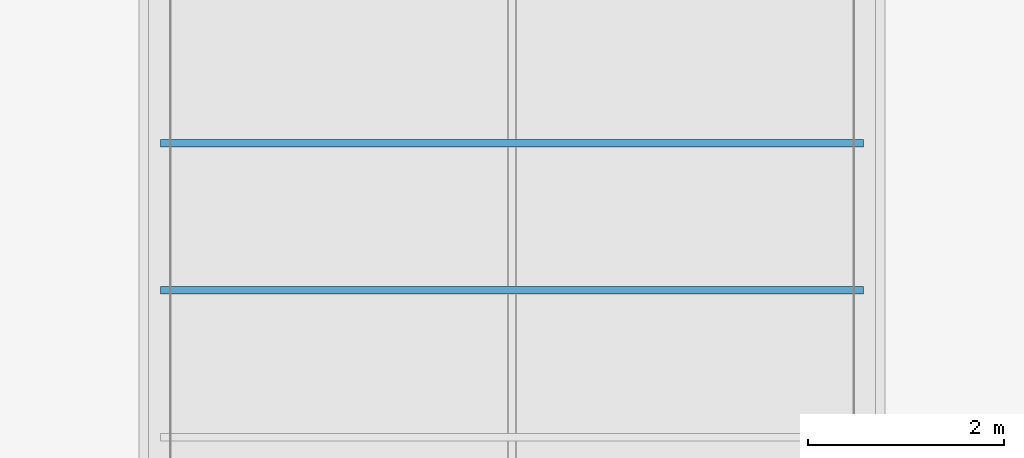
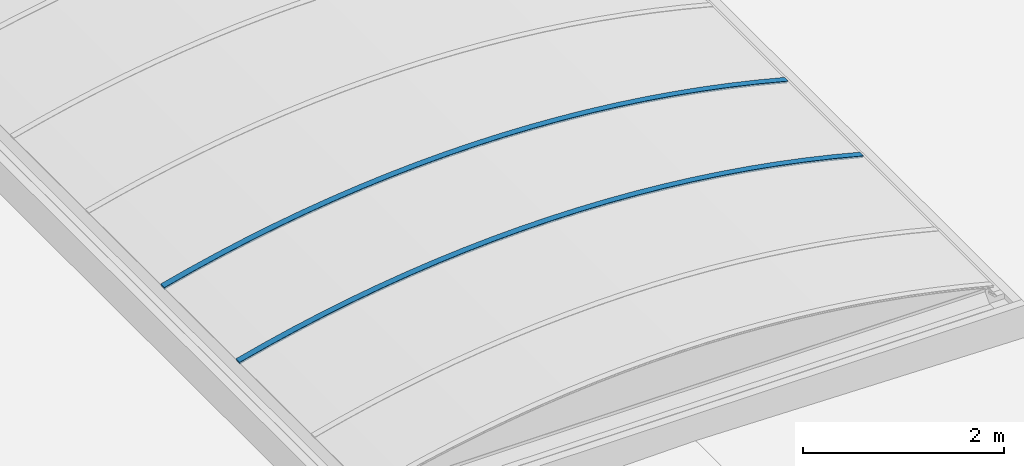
# One storey, part 53 of 81: 2 beams.
"""IFC2X3 building model written with IfcOpenShell, lengths in millimetres."""

from ifc_helpers import new_model, entity, si_unit, converted_unit, derived_unit, money_unit, direction, frame, origin_with_axes, place, context, subcontext, project, spatial, faceted_brep, material, material_list, type_object, element, save


model = new_model("IFC2X3")

# Units and contexts
model_context = context("Model", 3, precision=0.01, world=origin_with_axes(), true_north=direction((0.0, 1.0)))
body_context = subcontext(model_context, "Body", "Model", "MODEL_VIEW")
ifc_project = project(units=[si_unit("LENGTHUNIT", "METRE", prefix="MILLI"), si_unit("AREAUNIT", "SQUARE_METRE"), si_unit("VOLUMEUNIT", "CUBIC_METRE"), converted_unit("PLANEANGLEUNIT", "DEGREE", entity("IfcPlaneAngleMeasure", 0.0174532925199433), si_unit("PLANEANGLEUNIT", "RADIAN"), dimensions=[0, 0, 0, 0, 0, 0, 0]), money_unit("EUR"), converted_unit("TIMEUNIT", "Year", entity("IfcTimeMeasure", 31557600.0), si_unit("TIMEUNIT", "SECOND"), dimensions=[0, 0, 1, 0, 0, 0, 0]), si_unit("MASSUNIT", "GRAM", prefix="KILO"), si_unit("THERMODYNAMICTEMPERATUREUNIT", "DEGREE_CELSIUS"), si_unit("LUMINOUSINTENSITYUNIT", "LUMEN"), si_unit("ENERGYUNIT", "JOULE", prefix="MEGA"), derived_unit("THERMALCONDUCTANCEUNIT", [(si_unit("POWERUNIT", "WATT"), 1), (si_unit("LENGTHUNIT", "METRE"), -1), (si_unit("THERMODYNAMICTEMPERATUREUNIT", "KELVIN"), -1)]), derived_unit("SPECIFICHEATCAPACITYUNIT", [(si_unit("ENERGYUNIT", "JOULE"), 1), (si_unit("MASSUNIT", "GRAM", prefix="KILO"), -1), (si_unit("THERMODYNAMICTEMPERATUREUNIT", "KELVIN"), -1)]), derived_unit("MASSDENSITYUNIT", [(si_unit("MASSUNIT", "GRAM", prefix="KILO"), 1), (si_unit("VOLUMEUNIT", "CUBIC_METRE"), -1)])], contexts=[model_context])

# Site, building, storey
site_placement = place(None, origin_with_axes())
site = spatial("IfcSite", under=ifc_project, at=site_placement, Name="Site", CompositionType="ELEMENT")
building_placement = place(site_placement, origin_with_axes())
building = spatial("IfcBuilding", under=site, at=building_placement, Name="Naam gebouw", CompositionType="ELEMENT")
storey_placement = place(building_placement, frame((0.0, 0.0, 15320.0), z_axis=(0.0, 0.0, 1.0), x_axis=(1.0, 0.0, 0.0)))
storey = spatial("IfcBuildingStorey", under=building, at=storey_placement, Name="01 dak", CompositionType="ELEMENT", Elevation=15320.0)

# Beams
ifc_material = material(Name="Metaal - Aluminium AFW")
ifc_material_list = material_list([ifc_material, ifc_material])
beam_type = type_object("IfcBeamType", Name="lichtstraat polycarbonaat (constructie) 7420 x 670", PredefinedType="BEAM")
beam_1_placement = place(storey_placement, frame((105300.0, 73362.50000000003, 559.9999999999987), z_axis=(0.0, 0.0, 1.0), x_axis=(1.0, 0.0, 0.0)))
element("IfcBeam", 1, at=beam_1_placement, inside=storey, type_object=beam_type, material=ifc_material_list, Name="Plafondafwerking 3", ObjectType="BEAM", context=body_context, shape_type="Brep", body=[
    faceted_brep([(-3532.999999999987, 75.00000000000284, 192.1385480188), (-3532.999999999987, 0.0, 192.1385480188), (-3582.999999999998, 0.0, 179.000000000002), (-3582.999999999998, 75.00000000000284, 179.000000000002), (-3527.999999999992, 75.00000000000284, 193.4415530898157), (-3527.999999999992, 0.0, 193.4415530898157), (-2943.44844329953, 0.0, 337.3385317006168), (-3264.746952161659, 0.0, 264.2761146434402), (-3584.237010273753, 0.0, 183.6724462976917), (-3213.32287812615, 0.0, 271.5053933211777), (-2896.922437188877, 0.0, 342.2614189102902), (-2578.96836412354, 0.0, 405.6716830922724), (-2259.631179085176, 0.0, 461.7021786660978), (-1939.082143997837, 0.0, 510.3228562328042), (-1617.493170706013, 0.0, 551.5076403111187), (-1295.036728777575, 0.0, 585.2344433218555), (-971.8857530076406, 0.0, 611.485177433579), (-648.2135506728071, 0.0, 630.2457642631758), (-324.1937085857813, 0.0, 641.5061424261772), (0.0, 0.0, 645.2602729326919), (324.1937085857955, 0.0, 641.5061424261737), (648.2135506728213, 0.0, 630.2457642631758), (971.8857530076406, 0.0, 611.4851774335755), (1295.036728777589, 0.0, 585.2344433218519), (1617.493170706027, 0.0, 551.5076403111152), (1939.082143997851, 0.0, 510.3228562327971), (2259.63117908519, 0.0, 461.7021786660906), (2578.96836412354, 0.0, 405.6716830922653), (2896.922437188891, 0.0, 342.2614189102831), (3213.322878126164, 0.0, 271.5053933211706), (3528.000000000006, 0.0, 193.4415530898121), (3528.000000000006, 0.0, 194.0000000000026), (3533.000000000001, 0.0, 194.0000000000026), (3533.000000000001, 0.0, 192.1385480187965), (3582.999999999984, 0.0, 179.000000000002), (3584.237010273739, 0.0, 183.6724462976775), (3264.746952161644, 0.0, 264.2761146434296), (2943.448443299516, 0.0, 337.3385317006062), (2620.51946150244, 0.0, 402.8192257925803), (2296.138887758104, 0.0, 460.6819250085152), (1970.486407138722, 0.0, 510.8945772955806), (1643.742409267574, 0.0, 553.4293682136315), (1316.087888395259, 0.0, 588.2627363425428), (987.7043431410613, 0.0, 615.3753863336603), (658.7736759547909, 0.0, 634.7522995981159), (329.4780923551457, 0.0, 646.3827426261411), (0.0, 0.0, 650.2602729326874), (-329.4780923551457, 0.0, 646.3827426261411), (-658.7736759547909, 0.0, 634.7522995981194), (-987.7043431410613, 0.0, 615.375386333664), (-1316.087888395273, 0.0, 588.2627363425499), (-1643.742409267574, 0.0, 553.4293682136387), (-1970.486407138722, 0.0, 510.8945772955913), (-2296.138887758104, 0.0, 460.6819250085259), (-2620.519461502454, 0.0, 402.8192257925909), (-3584.237010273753, 75.00000000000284, 183.6724462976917), (-3213.32287812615, 75.00000000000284, 271.5053933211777), (-3264.746952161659, 75.00000000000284, 264.2761146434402), (-2943.44844329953, 75.00000000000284, 337.3385317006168), (-2620.519461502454, 75.00000000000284, 402.8192257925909), (-2296.138887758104, 75.00000000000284, 460.6819250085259), (-1970.486407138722, 75.00000000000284, 510.8945772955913), (-1643.742409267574, 75.00000000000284, 553.4293682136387), (-1316.087888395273, 75.00000000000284, 588.2627363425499), (-987.7043431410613, 75.00000000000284, 615.375386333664), (-658.7736759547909, 75.00000000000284, 634.7522995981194), (-329.4780923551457, 75.00000000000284, 646.3827426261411), (0.0, 75.00000000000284, 650.2602729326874), (329.4780923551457, 75.00000000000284, 646.3827426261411), (658.7736759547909, 75.00000000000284, 634.7522995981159), (987.7043431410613, 75.00000000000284, 615.3753863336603), (1316.087888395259, 75.00000000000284, 588.2627363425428), (1643.742409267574, 75.00000000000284, 553.4293682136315), (1970.486407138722, 75.00000000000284, 510.8945772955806), (2296.138887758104, 75.00000000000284, 460.6819250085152), (2620.51946150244, 75.00000000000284, 402.8192257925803), (2943.448443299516, 75.00000000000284, 337.3385317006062), (3264.746952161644, 75.00000000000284, 264.2761146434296), (3584.237010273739, 75.00000000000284, 183.6724462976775), (3582.999999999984, 75.00000000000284, 179.000000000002), (3533.000000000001, 75.00000000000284, 192.1385480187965), (3533.000000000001, 75.00000000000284, 194.0000000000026), (3528.000000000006, 75.00000000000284, 194.0000000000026), (3528.000000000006, 75.00000000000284, 193.4415530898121), (3213.322878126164, 75.00000000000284, 271.5053933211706), (2896.922437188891, 75.00000000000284, 342.2614189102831), (2578.96836412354, 75.00000000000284, 405.6716830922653), (2259.63117908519, 75.00000000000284, 461.7021786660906), (1939.082143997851, 75.00000000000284, 510.3228562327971), (1617.493170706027, 75.00000000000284, 551.5076403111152), (1295.036728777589, 75.00000000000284, 585.2344433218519), (971.8857530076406, 75.00000000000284, 611.4851774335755), (648.2135506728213, 75.00000000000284, 630.2457642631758), (324.1937085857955, 75.00000000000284, 641.5061424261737), (0.0, 75.00000000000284, 645.2602729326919), (-324.1937085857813, 75.00000000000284, 641.5061424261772), (-648.2135506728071, 75.00000000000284, 630.2457642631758), (-971.8857530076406, 75.00000000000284, 611.485177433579), (-1295.036728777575, 75.00000000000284, 585.2344433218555), (-1617.493170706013, 75.00000000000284, 551.5076403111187), (-1939.082143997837, 75.00000000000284, 510.3228562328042), (-2259.631179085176, 75.00000000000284, 461.7021786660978), (-2578.96836412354, 75.00000000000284, 405.6716830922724), (-2896.922437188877, 75.00000000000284, 342.2614189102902)], [[[0, 1, 2, 3]], [[4, 5, 1, 0]], [[6, 7, 8, 2, 1, 5, 9, 10, 11, 12, 13, 14, 15, 16, 17, 18, 19, 20, 21, 22, 23, 24, 25, 26, 27, 28, 29, 30, 31, 32, 33, 34, 35, 36, 37, 38, 39, 40, 41, 42, 43, 44, 45, 46, 47, 48, 49, 50, 51, 52, 53, 54]], [[3, 2, 8, 55]], [[56, 4, 0, 3, 55, 57, 58, 59, 60, 61, 62, 63, 64, 65, 66, 67, 68, 69, 70, 71, 72, 73, 74, 75, 76, 77, 78, 79, 80, 81, 82, 83, 84, 85, 86, 87, 88, 89, 90, 91, 92, 93, 94, 95, 96, 97, 98, 99, 100, 101, 102, 103]], [[56, 9, 5, 4]], [[57, 7, 6, 58]], [[55, 8, 7, 57]], [[103, 10, 9, 56]], [[102, 11, 10, 103]], [[101, 12, 11, 102]], [[100, 13, 12, 101]], [[99, 14, 13, 100]], [[98, 15, 14, 99]], [[97, 16, 15, 98]], [[96, 17, 16, 97]], [[95, 18, 17, 96]], [[94, 19, 18, 95]], [[93, 20, 19, 94]], [[92, 21, 20, 93]], [[91, 22, 21, 92]], [[90, 23, 22, 91]], [[89, 24, 23, 90]], [[88, 25, 24, 89]], [[87, 26, 25, 88]], [[86, 27, 26, 87]], [[85, 28, 27, 86]], [[84, 29, 28, 85]], [[83, 30, 29, 84]], [[82, 31, 30, 83]], [[81, 32, 31, 82]], [[80, 33, 32, 81]], [[79, 34, 33, 80]], [[78, 35, 34, 79]], [[77, 36, 35, 78]], [[76, 37, 36, 77]], [[75, 38, 37, 76]], [[74, 39, 38, 75]], [[73, 40, 39, 74]], [[72, 41, 40, 73]], [[71, 42, 41, 72]], [[70, 43, 42, 71]], [[69, 44, 43, 70]], [[68, 45, 44, 69]], [[67, 46, 45, 68]], [[66, 47, 46, 67]], [[65, 48, 47, 66]], [[64, 49, 48, 65]], [[63, 50, 49, 64]], [[62, 51, 50, 63]], [[61, 52, 51, 62]], [[60, 53, 52, 61]], [[59, 54, 53, 60]], [[58, 6, 54, 59]]]),
    faceted_brep([(3269.271727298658, 75.00000000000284, 283.190243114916), (2947.542627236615, 75.00000000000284, 356.4574241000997), (2947.542627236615, 0.0, 356.4574241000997), (3269.271727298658, 0.0, 283.190243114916), (3589.184752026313, 75.00000000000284, 202.3611008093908), (3587.947861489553, 75.00000000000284, 197.6891067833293), (3528.000000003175, 75.00000000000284, 213.4415530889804), (3213.322878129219, 75.00000000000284, 291.505393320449), (2896.922437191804, 75.00000000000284, 362.2614189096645), (2578.968364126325, 75.00000000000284, 425.6716830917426), (2259.631179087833, 75.00000000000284, 481.7021786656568), (1939.082144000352, 75.00000000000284, 530.3228562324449), (1617.493170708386, 75.00000000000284, 571.5076403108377), (1295.036728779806, 75.00000000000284, 605.2344433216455), (971.8857530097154, 75.00000000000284, 631.4851774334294), (648.2135506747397, 75.00000000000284, 650.2457642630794), (324.1937085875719, 75.00000000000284, 661.5061424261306), (1.63424829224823e-09, 75.00000000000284, 665.2602729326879), (-324.1937085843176, 75.00000000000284, 661.5061424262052), (-648.2135506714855, 75.00000000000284, 650.2457642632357), (-971.8857530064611, 75.00000000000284, 631.4851774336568), (-1295.036728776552, 75.00000000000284, 605.2344433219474), (-1617.493170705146, 75.00000000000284, 571.5076403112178), (-1939.082143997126, 75.00000000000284, 530.3228562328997), (-2259.631179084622, 75.00000000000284, 481.7021786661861), (-2578.968364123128, 75.00000000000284, 425.6716830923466), (-2896.922437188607, 75.00000000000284, 362.2614189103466), (-3213.322878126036, 75.00000000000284, 291.5053933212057), (-3528.00000000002, 75.00000000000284, 213.4415530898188), (-3533.000000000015, 75.00000000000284, 212.1385480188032), (-3587.947861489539, 75.00000000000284, 197.6891067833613), (-3589.184752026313, 75.00000000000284, 202.3611008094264), (-3269.271727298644, 75.00000000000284, 283.1902431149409), (-2947.542627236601, 75.00000000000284, 356.4574241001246), (-2624.176171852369, 75.00000000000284, 422.1219439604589), (-2299.351990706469, 75.00000000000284, 480.1473261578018), (-1973.250523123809, 75.00000000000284, 530.5013376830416), (-1646.052917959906, 75.00000000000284, 573.156006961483), (-1317.940932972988, 75.00000000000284, 608.0876393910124), (-989.0968338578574, 75.00000000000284, 635.2768305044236), (-659.7032929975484, 75.00000000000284, 654.7084767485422), (-329.9432879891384, 75.00000000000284, 666.3717838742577), (0.0, 75.00000000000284, 670.2602729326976), (329.9432879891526, 75.00000000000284, 666.3717838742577), (659.7032929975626, 75.00000000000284, 654.7084767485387), (989.0968338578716, 75.00000000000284, 635.2768305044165), (1317.940932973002, 75.00000000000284, 608.0876393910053), (1646.052917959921, 75.00000000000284, 573.1560069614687), (1973.250523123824, 75.00000000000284, 530.5013376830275), (2299.351990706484, 75.00000000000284, 480.147326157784), (2624.176171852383, 75.00000000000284, 422.1219439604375), (2624.176171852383, 0.0, 422.1219439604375), (2299.351990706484, 0.0, 480.147326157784), (1973.250523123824, 0.0, 530.5013376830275), (1646.052917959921, 0.0, 573.1560069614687), (1317.940932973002, 0.0, 608.0876393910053), (989.0968338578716, 0.0, 635.2768305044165), (659.7032929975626, 0.0, 654.7084767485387), (329.9432879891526, 0.0, 666.3717838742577), (0.0, 0.0, 670.2602729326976), (-329.9432879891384, 0.0, 666.3717838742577), (-659.7032929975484, 0.0, 654.7084767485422), (-989.0968338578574, 0.0, 635.2768305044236), (-1317.940932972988, 0.0, 608.0876393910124), (-1646.052917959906, 0.0, 573.156006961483), (-1973.250523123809, 0.0, 530.5013376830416), (-2299.351990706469, 0.0, 480.1473261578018), (-2624.176171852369, 0.0, 422.1219439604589), (-2947.542627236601, 0.0, 356.4574241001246), (-3269.271727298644, 0.0, 283.1902431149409), (-3589.184752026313, 0.0, 202.3611008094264), (-3587.947861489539, 0.0, 197.6891067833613), (-3533.000000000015, 0.0, 212.1385480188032), (-3528.00000000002, 0.0, 213.4415530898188), (-3213.322878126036, 0.0, 291.5053933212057), (-2896.922437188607, 0.0, 362.2614189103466), (-2578.968364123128, 0.0, 425.6716830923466), (-2259.631179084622, 0.0, 481.7021786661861), (-1939.082143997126, 0.0, 530.3228562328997), (-1617.493170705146, 0.0, 571.5076403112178), (-1295.036728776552, 0.0, 605.2344433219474), (-971.8857530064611, 0.0, 631.4851774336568), (-648.2135506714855, 0.0, 650.2457642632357), (-324.1937085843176, 0.0, 661.5061424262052), (1.63424829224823e-09, 0.0, 665.2602729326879), (324.1937085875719, 0.0, 661.5061424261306), (648.2135506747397, 0.0, 650.2457642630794), (971.8857530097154, 0.0, 631.4851774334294), (1295.036728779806, 0.0, 605.2344433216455), (1617.493170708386, 0.0, 571.5076403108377), (1939.082144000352, 0.0, 530.3228562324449), (2259.631179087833, 0.0, 481.7021786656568), (2578.968364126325, 0.0, 425.6716830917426), (2896.922437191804, 0.0, 362.2614189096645), (3213.322878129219, 0.0, 291.505393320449), (3528.000000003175, 0.0, 213.4415530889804), (3587.947861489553, 0.0, 197.6891067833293), (3589.184752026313, 0.0, 202.3611008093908)], [[[0, 1, 2, 3]], [[0, 4, 5, 6, 7, 8, 9, 10, 11, 12, 13, 14, 15, 16, 17, 18, 19, 20, 21, 22, 23, 24, 25, 26, 27, 28, 29, 30, 31, 32, 33, 34, 35, 36, 37, 38, 39, 40, 41, 42, 43, 44, 45, 46, 47, 48, 49, 50, 1]], [[1, 50, 51, 2]], [[3, 2, 51, 52, 53, 54, 55, 56, 57, 58, 59, 60, 61, 62, 63, 64, 65, 66, 67, 68, 69, 70, 71, 72, 73, 74, 75, 76, 77, 78, 79, 80, 81, 82, 83, 84, 85, 86, 87, 88, 89, 90, 91, 92, 93, 94, 95, 96, 97]], [[4, 0, 3, 97]], [[5, 4, 97, 96]], [[6, 5, 96, 95]], [[7, 6, 95, 94]], [[8, 7, 94, 93]], [[9, 8, 93, 92]], [[10, 9, 92, 91]], [[11, 10, 91, 90]], [[12, 11, 90, 89]], [[13, 12, 89, 88]], [[14, 13, 88, 87]], [[15, 14, 87, 86]], [[16, 15, 86, 85]], [[17, 16, 85, 84]], [[18, 17, 84, 83]], [[19, 18, 83, 82]], [[20, 19, 82, 81]], [[21, 20, 81, 80]], [[22, 21, 80, 79]], [[23, 22, 79, 78]], [[24, 23, 78, 77]], [[25, 24, 77, 76]], [[26, 25, 76, 75]], [[27, 26, 75, 74]], [[28, 27, 74, 73]], [[29, 28, 73, 72]], [[30, 29, 72, 71]], [[31, 30, 71, 70]], [[32, 31, 70, 69]], [[33, 32, 69, 68]], [[34, 33, 68, 67]], [[35, 34, 67, 66]], [[36, 35, 66, 65]], [[37, 36, 65, 64]], [[38, 37, 64, 63]], [[39, 38, 63, 62]], [[40, 39, 62, 61]], [[41, 40, 61, 60]], [[42, 41, 60, 59]], [[43, 42, 59, 58]], [[44, 43, 58, 57]], [[45, 44, 57, 56]], [[46, 45, 56, 55]], [[47, 46, 55, 54]], [[48, 47, 54, 53]], [[49, 48, 53, 52]], [[50, 49, 52, 51]]]),
])
beam_2_placement = place(storey_placement, frame((105300.0, 71862.50000000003, 559.9999999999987), z_axis=(0.0, 0.0, 1.0), x_axis=(1.0, 0.0, 0.0)))
element("IfcBeam", 2, at=beam_2_placement, inside=storey, type_object=beam_type, material=ifc_material_list, Name="Plafondafwerking 3", ObjectType="BEAM", context=body_context, shape_type="Brep", body=[
    faceted_brep([(-3532.999999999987, 75.00000000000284, 192.1385480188), (-3532.999999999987, 0.0, 192.1385480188), (-3582.999999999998, 0.0, 179.000000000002), (-3582.999999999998, 75.00000000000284, 179.000000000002), (-3527.999999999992, 75.00000000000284, 193.4415530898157), (-3527.999999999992, 0.0, 193.4415530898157), (-2943.44844329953, 0.0, 337.3385317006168), (-3264.746952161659, 0.0, 264.2761146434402), (-3584.237010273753, 0.0, 183.6724462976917), (-3213.32287812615, 0.0, 271.5053933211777), (-2896.922437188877, 0.0, 342.2614189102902), (-2578.96836412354, 0.0, 405.6716830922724), (-2259.631179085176, 0.0, 461.7021786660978), (-1939.082143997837, 0.0, 510.3228562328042), (-1617.493170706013, 0.0, 551.5076403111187), (-1295.036728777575, 0.0, 585.2344433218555), (-971.8857530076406, 0.0, 611.485177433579), (-648.2135506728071, 0.0, 630.2457642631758), (-324.1937085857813, 0.0, 641.5061424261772), (0.0, 0.0, 645.2602729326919), (324.1937085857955, 0.0, 641.5061424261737), (648.2135506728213, 0.0, 630.2457642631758), (971.8857530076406, 0.0, 611.4851774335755), (1295.036728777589, 0.0, 585.2344433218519), (1617.493170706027, 0.0, 551.5076403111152), (1939.082143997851, 0.0, 510.3228562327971), (2259.63117908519, 0.0, 461.7021786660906), (2578.96836412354, 0.0, 405.6716830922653), (2896.922437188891, 0.0, 342.2614189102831), (3213.322878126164, 0.0, 271.5053933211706), (3528.000000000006, 0.0, 193.4415530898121), (3528.000000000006, 0.0, 194.0000000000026), (3533.000000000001, 0.0, 194.0000000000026), (3533.000000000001, 0.0, 192.1385480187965), (3582.999999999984, 0.0, 179.000000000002), (3584.237010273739, 0.0, 183.6724462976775), (3264.746952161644, 0.0, 264.2761146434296), (2943.448443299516, 0.0, 337.3385317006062), (2620.51946150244, 0.0, 402.8192257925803), (2296.138887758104, 0.0, 460.6819250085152), (1970.486407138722, 0.0, 510.8945772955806), (1643.742409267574, 0.0, 553.4293682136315), (1316.087888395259, 0.0, 588.2627363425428), (987.7043431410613, 0.0, 615.3753863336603), (658.7736759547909, 0.0, 634.7522995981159), (329.4780923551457, 0.0, 646.3827426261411), (0.0, 0.0, 650.2602729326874), (-329.4780923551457, 0.0, 646.3827426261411), (-658.7736759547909, 0.0, 634.7522995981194), (-987.7043431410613, 0.0, 615.375386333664), (-1316.087888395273, 0.0, 588.2627363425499), (-1643.742409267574, 0.0, 553.4293682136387), (-1970.486407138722, 0.0, 510.8945772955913), (-2296.138887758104, 0.0, 460.6819250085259), (-2620.519461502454, 0.0, 402.8192257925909), (-3584.237010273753, 75.00000000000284, 183.6724462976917), (-3213.32287812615, 75.00000000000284, 271.5053933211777), (-3264.746952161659, 75.00000000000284, 264.2761146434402), (-2943.44844329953, 75.00000000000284, 337.3385317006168), (-2620.519461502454, 75.00000000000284, 402.8192257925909), (-2296.138887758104, 75.00000000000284, 460.6819250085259), (-1970.486407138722, 75.00000000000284, 510.8945772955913), (-1643.742409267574, 75.00000000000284, 553.4293682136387), (-1316.087888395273, 75.00000000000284, 588.2627363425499), (-987.7043431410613, 75.00000000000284, 615.375386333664), (-658.7736759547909, 75.00000000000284, 634.7522995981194), (-329.4780923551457, 75.00000000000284, 646.3827426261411), (0.0, 75.00000000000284, 650.2602729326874), (329.4780923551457, 75.00000000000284, 646.3827426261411), (658.7736759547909, 75.00000000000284, 634.7522995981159), (987.7043431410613, 75.00000000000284, 615.3753863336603), (1316.087888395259, 75.00000000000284, 588.2627363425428), (1643.742409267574, 75.00000000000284, 553.4293682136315), (1970.486407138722, 75.00000000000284, 510.8945772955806), (2296.138887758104, 75.00000000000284, 460.6819250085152), (2620.51946150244, 75.00000000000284, 402.8192257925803), (2943.448443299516, 75.00000000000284, 337.3385317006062), (3264.746952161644, 75.00000000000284, 264.2761146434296), (3584.237010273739, 75.00000000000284, 183.6724462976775), (3582.999999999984, 75.00000000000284, 179.000000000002), (3533.000000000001, 75.00000000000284, 192.1385480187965), (3533.000000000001, 75.00000000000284, 194.0000000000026), (3528.000000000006, 75.00000000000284, 194.0000000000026), (3528.000000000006, 75.00000000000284, 193.4415530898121), (3213.322878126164, 75.00000000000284, 271.5053933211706), (2896.922437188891, 75.00000000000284, 342.2614189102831), (2578.96836412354, 75.00000000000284, 405.6716830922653), (2259.63117908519, 75.00000000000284, 461.7021786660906), (1939.082143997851, 75.00000000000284, 510.3228562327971), (1617.493170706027, 75.00000000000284, 551.5076403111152), (1295.036728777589, 75.00000000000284, 585.2344433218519), (971.8857530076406, 75.00000000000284, 611.4851774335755), (648.2135506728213, 75.00000000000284, 630.2457642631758), (324.1937085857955, 75.00000000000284, 641.5061424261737), (0.0, 75.00000000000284, 645.2602729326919), (-324.1937085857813, 75.00000000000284, 641.5061424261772), (-648.2135506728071, 75.00000000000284, 630.2457642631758), (-971.8857530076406, 75.00000000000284, 611.485177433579), (-1295.036728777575, 75.00000000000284, 585.2344433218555), (-1617.493170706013, 75.00000000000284, 551.5076403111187), (-1939.082143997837, 75.00000000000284, 510.3228562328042), (-2259.631179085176, 75.00000000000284, 461.7021786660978), (-2578.96836412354, 75.00000000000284, 405.6716830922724), (-2896.922437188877, 75.00000000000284, 342.2614189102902)], [[[0, 1, 2, 3]], [[4, 5, 1, 0]], [[6, 7, 8, 2, 1, 5, 9, 10, 11, 12, 13, 14, 15, 16, 17, 18, 19, 20, 21, 22, 23, 24, 25, 26, 27, 28, 29, 30, 31, 32, 33, 34, 35, 36, 37, 38, 39, 40, 41, 42, 43, 44, 45, 46, 47, 48, 49, 50, 51, 52, 53, 54]], [[3, 2, 8, 55]], [[56, 4, 0, 3, 55, 57, 58, 59, 60, 61, 62, 63, 64, 65, 66, 67, 68, 69, 70, 71, 72, 73, 74, 75, 76, 77, 78, 79, 80, 81, 82, 83, 84, 85, 86, 87, 88, 89, 90, 91, 92, 93, 94, 95, 96, 97, 98, 99, 100, 101, 102, 103]], [[56, 9, 5, 4]], [[57, 7, 6, 58]], [[55, 8, 7, 57]], [[103, 10, 9, 56]], [[102, 11, 10, 103]], [[101, 12, 11, 102]], [[100, 13, 12, 101]], [[99, 14, 13, 100]], [[98, 15, 14, 99]], [[97, 16, 15, 98]], [[96, 17, 16, 97]], [[95, 18, 17, 96]], [[94, 19, 18, 95]], [[93, 20, 19, 94]], [[92, 21, 20, 93]], [[91, 22, 21, 92]], [[90, 23, 22, 91]], [[89, 24, 23, 90]], [[88, 25, 24, 89]], [[87, 26, 25, 88]], [[86, 27, 26, 87]], [[85, 28, 27, 86]], [[84, 29, 28, 85]], [[83, 30, 29, 84]], [[82, 31, 30, 83]], [[81, 32, 31, 82]], [[80, 33, 32, 81]], [[79, 34, 33, 80]], [[78, 35, 34, 79]], [[77, 36, 35, 78]], [[76, 37, 36, 77]], [[75, 38, 37, 76]], [[74, 39, 38, 75]], [[73, 40, 39, 74]], [[72, 41, 40, 73]], [[71, 42, 41, 72]], [[70, 43, 42, 71]], [[69, 44, 43, 70]], [[68, 45, 44, 69]], [[67, 46, 45, 68]], [[66, 47, 46, 67]], [[65, 48, 47, 66]], [[64, 49, 48, 65]], [[63, 50, 49, 64]], [[62, 51, 50, 63]], [[61, 52, 51, 62]], [[60, 53, 52, 61]], [[59, 54, 53, 60]], [[58, 6, 54, 59]]]),
    faceted_brep([(3269.271727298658, 75.00000000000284, 283.190243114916), (2947.542627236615, 75.00000000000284, 356.4574241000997), (2947.542627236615, 0.0, 356.4574241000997), (3269.271727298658, 0.0, 283.190243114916), (3589.184752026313, 75.00000000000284, 202.3611008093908), (3587.947861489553, 75.00000000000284, 197.6891067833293), (3528.000000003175, 75.00000000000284, 213.4415530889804), (3213.322878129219, 75.00000000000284, 291.505393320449), (2896.922437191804, 75.00000000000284, 362.2614189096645), (2578.968364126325, 75.00000000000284, 425.6716830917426), (2259.631179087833, 75.00000000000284, 481.7021786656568), (1939.082144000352, 75.00000000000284, 530.3228562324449), (1617.493170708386, 75.00000000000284, 571.5076403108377), (1295.036728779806, 75.00000000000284, 605.2344433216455), (971.8857530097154, 75.00000000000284, 631.4851774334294), (648.2135506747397, 75.00000000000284, 650.2457642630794), (324.1937085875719, 75.00000000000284, 661.5061424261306), (1.63424829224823e-09, 75.00000000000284, 665.2602729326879), (-324.1937085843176, 75.00000000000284, 661.5061424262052), (-648.2135506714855, 75.00000000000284, 650.2457642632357), (-971.8857530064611, 75.00000000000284, 631.4851774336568), (-1295.036728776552, 75.00000000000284, 605.2344433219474), (-1617.493170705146, 75.00000000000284, 571.5076403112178), (-1939.082143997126, 75.00000000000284, 530.3228562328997), (-2259.631179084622, 75.00000000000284, 481.7021786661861), (-2578.968364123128, 75.00000000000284, 425.6716830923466), (-2896.922437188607, 75.00000000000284, 362.2614189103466), (-3213.322878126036, 75.00000000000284, 291.5053933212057), (-3528.00000000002, 75.00000000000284, 213.4415530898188), (-3533.000000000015, 75.00000000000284, 212.1385480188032), (-3587.947861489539, 75.00000000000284, 197.6891067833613), (-3589.184752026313, 75.00000000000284, 202.3611008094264), (-3269.271727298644, 75.00000000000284, 283.1902431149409), (-2947.542627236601, 75.00000000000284, 356.4574241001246), (-2624.176171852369, 75.00000000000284, 422.1219439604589), (-2299.351990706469, 75.00000000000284, 480.1473261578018), (-1973.250523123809, 75.00000000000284, 530.5013376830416), (-1646.052917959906, 75.00000000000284, 573.156006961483), (-1317.940932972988, 75.00000000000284, 608.0876393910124), (-989.0968338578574, 75.00000000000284, 635.2768305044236), (-659.7032929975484, 75.00000000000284, 654.7084767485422), (-329.9432879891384, 75.00000000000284, 666.3717838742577), (0.0, 75.00000000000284, 670.2602729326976), (329.9432879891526, 75.00000000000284, 666.3717838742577), (659.7032929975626, 75.00000000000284, 654.7084767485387), (989.0968338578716, 75.00000000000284, 635.2768305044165), (1317.940932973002, 75.00000000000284, 608.0876393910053), (1646.052917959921, 75.00000000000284, 573.1560069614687), (1973.250523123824, 75.00000000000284, 530.5013376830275), (2299.351990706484, 75.00000000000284, 480.147326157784), (2624.176171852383, 75.00000000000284, 422.1219439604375), (2624.176171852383, 0.0, 422.1219439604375), (2299.351990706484, 0.0, 480.147326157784), (1973.250523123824, 0.0, 530.5013376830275), (1646.052917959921, 0.0, 573.1560069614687), (1317.940932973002, 0.0, 608.0876393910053), (989.0968338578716, 0.0, 635.2768305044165), (659.7032929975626, 0.0, 654.7084767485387), (329.9432879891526, 0.0, 666.3717838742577), (0.0, 0.0, 670.2602729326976), (-329.9432879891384, 0.0, 666.3717838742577), (-659.7032929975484, 0.0, 654.7084767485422), (-989.0968338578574, 0.0, 635.2768305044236), (-1317.940932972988, 0.0, 608.0876393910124), (-1646.052917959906, 0.0, 573.156006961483), (-1973.250523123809, 0.0, 530.5013376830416), (-2299.351990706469, 0.0, 480.1473261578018), (-2624.176171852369, 0.0, 422.1219439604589), (-2947.542627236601, 0.0, 356.4574241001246), (-3269.271727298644, 0.0, 283.1902431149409), (-3589.184752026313, 0.0, 202.3611008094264), (-3587.947861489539, 0.0, 197.6891067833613), (-3533.000000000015, 0.0, 212.1385480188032), (-3528.00000000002, 0.0, 213.4415530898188), (-3213.322878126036, 0.0, 291.5053933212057), (-2896.922437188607, 0.0, 362.2614189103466), (-2578.968364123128, 0.0, 425.6716830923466), (-2259.631179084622, 0.0, 481.7021786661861), (-1939.082143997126, 0.0, 530.3228562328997), (-1617.493170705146, 0.0, 571.5076403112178), (-1295.036728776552, 0.0, 605.2344433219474), (-971.8857530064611, 0.0, 631.4851774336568), (-648.2135506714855, 0.0, 650.2457642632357), (-324.1937085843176, 0.0, 661.5061424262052), (1.63424829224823e-09, 0.0, 665.2602729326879), (324.1937085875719, 0.0, 661.5061424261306), (648.2135506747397, 0.0, 650.2457642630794), (971.8857530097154, 0.0, 631.4851774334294), (1295.036728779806, 0.0, 605.2344433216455), (1617.493170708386, 0.0, 571.5076403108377), (1939.082144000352, 0.0, 530.3228562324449), (2259.631179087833, 0.0, 481.7021786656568), (2578.968364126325, 0.0, 425.6716830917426), (2896.922437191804, 0.0, 362.2614189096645), (3213.322878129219, 0.0, 291.505393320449), (3528.000000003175, 0.0, 213.4415530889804), (3587.947861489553, 0.0, 197.6891067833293), (3589.184752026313, 0.0, 202.3611008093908)], [[[0, 1, 2, 3]], [[0, 4, 5, 6, 7, 8, 9, 10, 11, 12, 13, 14, 15, 16, 17, 18, 19, 20, 21, 22, 23, 24, 25, 26, 27, 28, 29, 30, 31, 32, 33, 34, 35, 36, 37, 38, 39, 40, 41, 42, 43, 44, 45, 46, 47, 48, 49, 50, 1]], [[1, 50, 51, 2]], [[3, 2, 51, 52, 53, 54, 55, 56, 57, 58, 59, 60, 61, 62, 63, 64, 65, 66, 67, 68, 69, 70, 71, 72, 73, 74, 75, 76, 77, 78, 79, 80, 81, 82, 83, 84, 85, 86, 87, 88, 89, 90, 91, 92, 93, 94, 95, 96, 97]], [[4, 0, 3, 97]], [[5, 4, 97, 96]], [[6, 5, 96, 95]], [[7, 6, 95, 94]], [[8, 7, 94, 93]], [[9, 8, 93, 92]], [[10, 9, 92, 91]], [[11, 10, 91, 90]], [[12, 11, 90, 89]], [[13, 12, 89, 88]], [[14, 13, 88, 87]], [[15, 14, 87, 86]], [[16, 15, 86, 85]], [[17, 16, 85, 84]], [[18, 17, 84, 83]], [[19, 18, 83, 82]], [[20, 19, 82, 81]], [[21, 20, 81, 80]], [[22, 21, 80, 79]], [[23, 22, 79, 78]], [[24, 23, 78, 77]], [[25, 24, 77, 76]], [[26, 25, 76, 75]], [[27, 26, 75, 74]], [[28, 27, 74, 73]], [[29, 28, 73, 72]], [[30, 29, 72, 71]], [[31, 30, 71, 70]], [[32, 31, 70, 69]], [[33, 32, 69, 68]], [[34, 33, 68, 67]], [[35, 34, 67, 66]], [[36, 35, 66, 65]], [[37, 36, 65, 64]], [[38, 37, 64, 63]], [[39, 38, 63, 62]], [[40, 39, 62, 61]], [[41, 40, 61, 60]], [[42, 41, 60, 59]], [[43, 42, 59, 58]], [[44, 43, 58, 57]], [[45, 44, 57, 56]], [[46, 45, 56, 55]], [[47, 46, 55, 54]], [[48, 47, 54, 53]], [[49, 48, 53, 52]], [[50, 49, 52, 51]]]),
])

save(model, "model.ifc")
